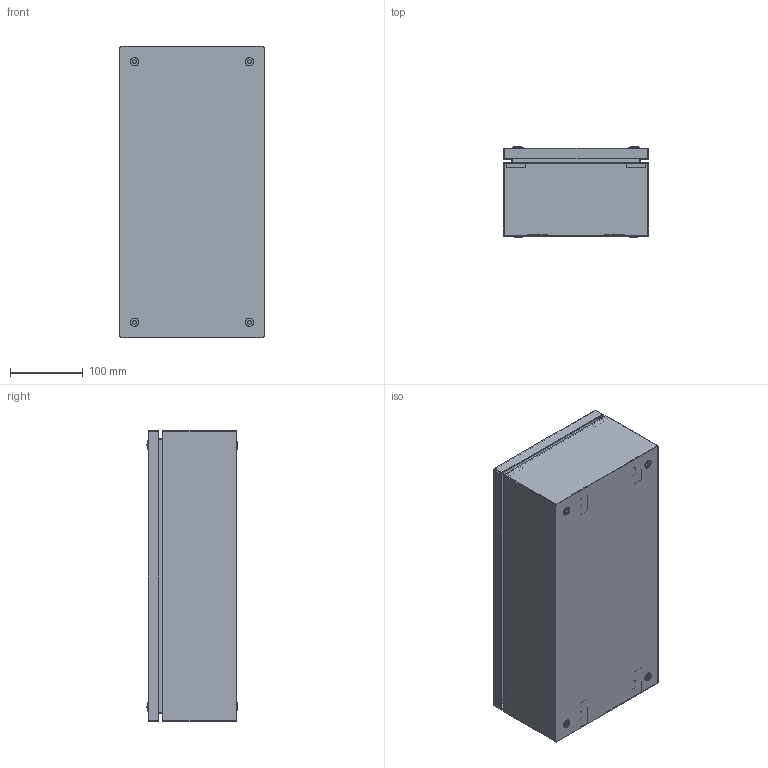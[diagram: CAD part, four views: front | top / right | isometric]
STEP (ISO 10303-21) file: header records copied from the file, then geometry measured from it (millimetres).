
FILE_DESCRIPTION(('Open CASCADE Model'),'2;1');
FILE_NAME('Open CASCADE Shape Model','2025-11-12T17:51:51',('Author'),( 'Open CASCADE'),'Open CASCADE STEP processor 7.8','Open CASCADE 7.8' ,'Unknown');
FILE_SCHEMA(('AUTOMOTIVE_DESIGN { 1 0 10303 214 1 1 1 1 }'));
Length unit declared in the file: millimetre
Products named in the file (16): Compound1; Compound2; Compound3; Solid1; Solid2; Solid3; Solid4; Solid5; Compound4; Compound5; Solid6; Solid7; Solid8; Solid9; Solid10; Solid11
Assembly tree (31 placements, depth 5):
  Compound1
    Compound2
      Compound3
        Solid1
        Solid2  x2
        Solid3  x2
        Solid4  x2
        Solid5
      Compound4
        Compound5
          Solid6
          Solid5
        Solid7
      Solid8  x4
      Solid9  x4
      Solid10  x4
    Solid11  x4
Bounding box: 200 x 123.79 x 400 mm (x, y, z)
Volume: 533096.5 mm3; surface area: 760536 mm2
Topology: 27 solids, 27 shells, 912 faces, 2456 edges, 1624 vertices
Faces by surface type: plane 668, cylinder 130, cone 46, bspline 32, torus 28, sphere 8
Full cylindrical faces by diameter (mm): 4 x14, 4.134 x4, 5 x8, 5.2 x4, 5.3 x4, 5.5 x4, 6 x2, 6.5 x4, 7.5 x6, 8 x8, 8.5 x4, 11.5 x4, 13.5 x4, 15.791 x4
Entity records: 14877 total; most frequent: CARTESIAN_POINT 4237, ORIENTED_EDGE 2226, DIRECTION 2016, EDGE_CURVE 1113, LINE 766, VECTOR 766, VERTEX_POINT 736, AXIS2_PLACEMENT_3D 625
